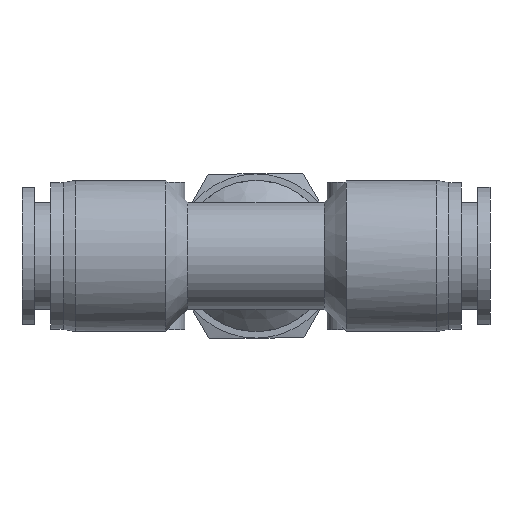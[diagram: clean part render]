
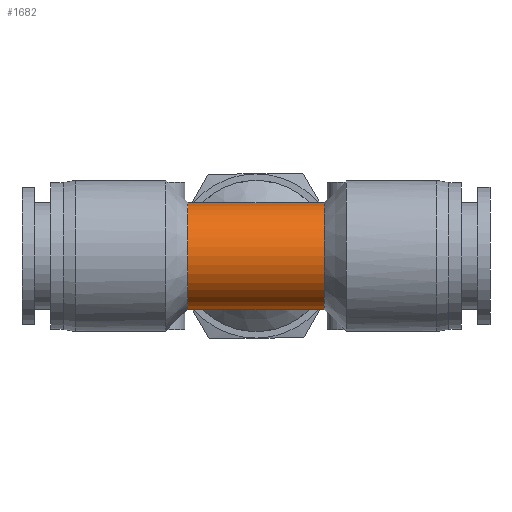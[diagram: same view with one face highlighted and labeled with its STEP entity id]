
A CAD part, front view. The second image highlights one B-rep face of the part: STEP entity #1682.
In plain terms, the highlighted cylindrical face has radius 6.5 mm (diameter 13 mm), a full revolution.
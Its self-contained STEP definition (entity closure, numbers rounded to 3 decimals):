
#1474=CARTESIAN_POINT('',(-8.3,-6.5,0.0));
#1475=VERTEX_POINT('',#1474);
#1476=CARTESIAN_POINT('',(-8.3,0.,0.0));
#1477=DIRECTION('',(-1.0,0.0,0.0));
#1478=DIRECTION('',(0.0,-1.0,0.0));
#1479=AXIS2_PLACEMENT_3D('',#1476,#1477,#1478);
#1480=CIRCLE('',#1479,6.5);
#1481=EDGE_CURVE('',#1475,#1475,#1480,.T.);
#1623=CARTESIAN_POINT('',(0.,0.,-6.5));
#1624=VERTEX_POINT('',#1623);
#1625=CARTESIAN_POINT('',(0.,0.,6.5));
#1626=VERTEX_POINT('',#1625);
#1627=CARTESIAN_POINT('',(0.0,0.0,0.0));
#1628=DIRECTION('',(0.707,-0.707,0.0));
#1629=DIRECTION('',(-0.707,-0.707,0.0));
#1630=AXIS2_PLACEMENT_3D('',#1627,#1628,#1629);
#1631=ELLIPSE('',#1630,9.192,6.5);
#1632=EDGE_CURVE('',#1624,#1626,#1631,.T.);
#1634=CARTESIAN_POINT('',(0.0,0.0,0.0));
#1635=DIRECTION('',(0.707,0.707,0.0));
#1636=DIRECTION('',(0.707,-0.707,0.0));
#1637=AXIS2_PLACEMENT_3D('',#1634,#1635,#1636);
#1638=ELLIPSE('',#1637,9.192,6.5);
#1639=EDGE_CURVE('',#1624,#1626,#1638,.T.);
#1659=CARTESIAN_POINT('',(4.15,0.0,0.0));
#1660=DIRECTION('',(1.0,0.0,0.0));
#1661=DIRECTION('',(0.0,1.0,0.0));
#1662=AXIS2_PLACEMENT_3D('',#1659,#1660,#1661);
#1663=CYLINDRICAL_SURFACE('',#1662,6.5);
#1664=ORIENTED_EDGE('',*,*,#1481,.F.);
#1665=EDGE_LOOP('',(#1664));
#1666=FACE_OUTER_BOUND('',#1665,.T.);
#1667=ORIENTED_EDGE('',*,*,#1632,.T.);
#1668=ORIENTED_EDGE('',*,*,#1639,.F.);
#1669=EDGE_LOOP('',(#1667,#1668));
#1670=FACE_BOUND('',#1669,.T.);
#1671=CARTESIAN_POINT('',(8.3,6.5,0.0));
#1672=VERTEX_POINT('',#1671);
#1673=CARTESIAN_POINT('',(8.3,0.0,0.0));
#1674=DIRECTION('',(1.0,0.0,0.0));
#1675=DIRECTION('',(0.0,1.0,0.0));
#1676=AXIS2_PLACEMENT_3D('',#1673,#1674,#1675);
#1677=CIRCLE('',#1676,6.5);
#1678=EDGE_CURVE('',#1672,#1672,#1677,.T.);
#1679=ORIENTED_EDGE('',*,*,#1678,.F.);
#1680=EDGE_LOOP('',(#1679));
#1681=FACE_BOUND('',#1680,.T.);
#1682=ADVANCED_FACE('',(#1666,#1670,#1681),#1663,.T.);
